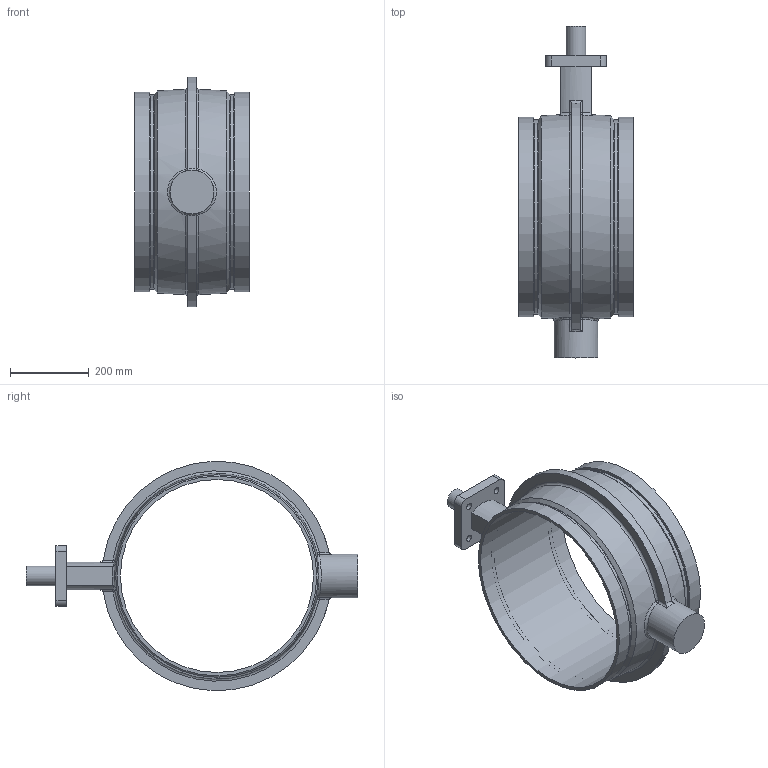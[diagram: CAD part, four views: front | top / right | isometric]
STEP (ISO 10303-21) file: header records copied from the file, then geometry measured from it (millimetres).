
FILE_DESCRIPTION(/* description */ ('VIC AGS VALVE BUTTERFLY VIC-300 MS BARE SERIES W761 (AGS)'),/* implementation_level */ '2;1');
FILE_NAME(/* name */ 'C:\Files for Export\W761\STEP\Victaulic_IPS-AGS_Vlv Btfl Vic-300 MS Bare_Series W761 (AGS)\Victaulic_IPS-AGS_Vlv Btfl Vic-300 MS Bare_Series W761 (AGS)_20 (500).stp',/* time_stamp */ '2024-08-27T14:18:38+02:00',/* author */ ('jheald'),/* organization */ ('Victaulic'),/* preprocessor_version */ 'ST-DEVELOPER v18.1',/* originating_system */ 'Autodesk Inventor 2020',/* authorisation */ '');
FILE_SCHEMA (('AUTOMOTIVE_DESIGN { 1 0 10303 214 3 1 1 }'));
Length unit declared in the file: inch
Products named in the file (1): W761-20.0
Bounding box: 292.1 x 844.8 x 583.87 mm (x, y, z)
Volume: 8663029.6 mm3; surface area: 1206929.9 mm2
Topology: 1 solids, 1 shells, 77 faces, 206 edges, 135 vertices
Faces by surface type: cylinder 27, plane 18, torus 10, bspline 10, sphere 8, cone 4
Full cylindrical faces by diameter (mm): 17.018 x4, 50.8 x1, 111.76 x1, 491.236 x1, 495.3 x2, 508 x2
Entity records: 3046 total; most frequent: CARTESIAN_POINT 1006, ORIENTED_EDGE 414, DIRECTION 394, EDGE_CURVE 207, AXIS2_PLACEMENT_3D 170, VERTEX_POINT 136, CIRCLE 102, EDGE_LOOP 91
